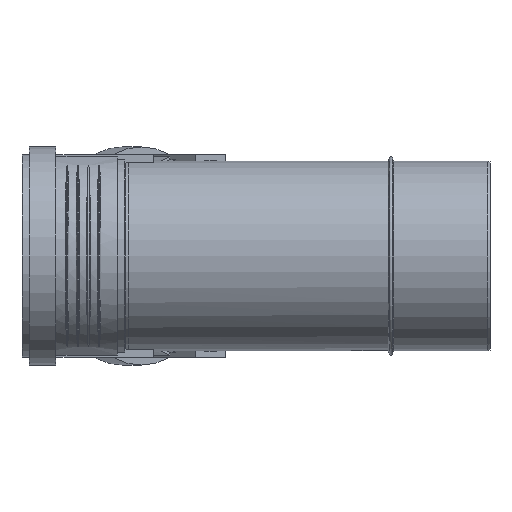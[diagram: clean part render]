
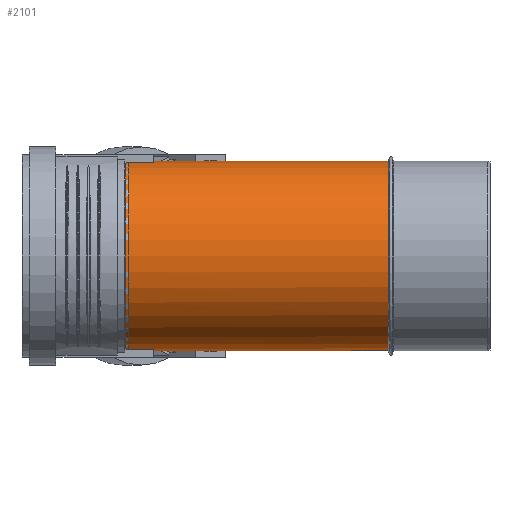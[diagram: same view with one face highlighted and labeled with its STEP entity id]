
A CAD part, left-side view. The second image highlights one B-rep face of the part: STEP entity #2101.
In plain terms, the highlighted cylindrical face has radius 80.125 mm (diameter 160.25 mm), a full revolution.
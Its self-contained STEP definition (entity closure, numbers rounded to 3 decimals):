
#178=ELLIPSE($,#2255,209.377,80.125);
#179=ELLIPSE($,#2256,86.727,80.125);
#180=ELLIPSE($,#2257,209.377,80.125);
#274=CYLINDRICAL_SURFACE($,#2254,80.125);
#442=FACE_BOUND($,#742,.T.);
#611=FACE_OUTER_BOUND($,#741,.T.);
#741=EDGE_LOOP($,(#1540));
#742=EDGE_LOOP($,(#1541,#1542,#1543,#1544));
#913=CIRCLE($,#2236,80.125);
#919=CIRCLE($,#2248,80.125);
#1015=VERTEX_POINT($,#3178);
#1023=VERTEX_POINT($,#3198);
#1024=VERTEX_POINT($,#3200);
#1025=VERTEX_POINT($,#3208);
#1026=VERTEX_POINT($,#3210);
#1229=EDGE_CURVE($,#1015,#1015,#913,.T.);
#1238=EDGE_CURVE($,#1024,#1023,#919,.T.);
#1242=EDGE_CURVE($,#1023,#1025,#178,.T.);
#1243=EDGE_CURVE($,#1025,#1026,#179,.T.);
#1244=EDGE_CURVE($,#1026,#1024,#180,.T.);
#1540=ORIENTED_EDGE($,*,*,#1229,.T.);
#1541=ORIENTED_EDGE($,*,*,#1238,.T.);
#1542=ORIENTED_EDGE($,*,*,#1242,.T.);
#1543=ORIENTED_EDGE($,*,*,#1243,.T.);
#1544=ORIENTED_EDGE($,*,*,#1244,.T.);
#2101=ADVANCED_FACE($,(#611,#442),#274,.T.);
#2236=AXIS2_PLACEMENT_3D($,#3179,#2494,#2495);
#2248=AXIS2_PLACEMENT_3D($,#3201,#2519,#2520);
#2254=AXIS2_PLACEMENT_3D($,#3207,#2531,#2532);
#2255=AXIS2_PLACEMENT_3D($,#3209,#2533,#2534);
#2256=AXIS2_PLACEMENT_3D($,#3211,#2535,#2536);
#2257=AXIS2_PLACEMENT_3D($,#3212,#2537,#2538);
#2494=DIRECTION('center_axis',(0.,1.,0.));
#2495=DIRECTION('ref_axis',(1.,0.,0.));
#2519=DIRECTION('center_axis',(0.,-1.,0.));
#2520=DIRECTION('ref_axis',(1.,0.,0.));
#2531=DIRECTION('center_axis',(0.,1.,0.));
#2532=DIRECTION('ref_axis',(1.,0.,0.));
#2533=DIRECTION('center_axis',(-0.924,0.383,0.));
#2534=DIRECTION('ref_axis',(-0.383,-0.924,0.));
#2535=DIRECTION('center_axis',(-0.383,-0.924,0.));
#2536=DIRECTION('ref_axis',(0.924,-0.383,0.));
#2537=DIRECTION('center_axis',(-0.924,0.383,0.));
#2538=DIRECTION('ref_axis',(-0.383,-0.924,0.));
#3178=CARTESIAN_POINT('',(-80.125,86.1,0.));
#3179=CARTESIAN_POINT('Origin',(0.,86.1,0.));
#3198=CARTESIAN_POINT('',(78.079,308.69,-17.99));
#3200=CARTESIAN_POINT('',(78.079,308.69,17.99));
#3201=CARTESIAN_POINT('Origin',(0.,308.69,0.));
#3207=CARTESIAN_POINT('Origin',(0.,0.,0.));
#3208=CARTESIAN_POINT('',(0.,120.19,-80.125));
#3209=CARTESIAN_POINT('Origin',(0.,120.19,0.));
#3210=CARTESIAN_POINT('',(0.,120.19,80.125));
#3211=CARTESIAN_POINT('Origin',(0.,120.19,0.));
#3212=CARTESIAN_POINT('Origin',(0.,120.19,0.));
